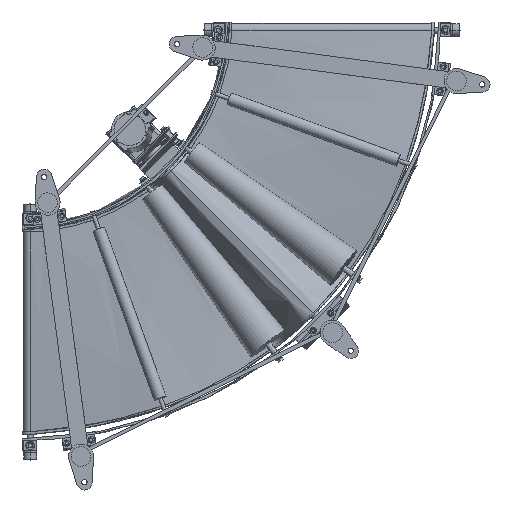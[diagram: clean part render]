
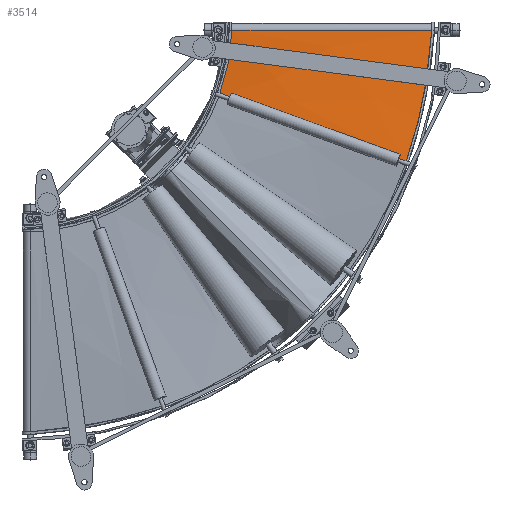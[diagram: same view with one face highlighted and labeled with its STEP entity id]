
A CAD part, front view. The second image highlights one B-rep face of the part: STEP entity #3514.
In plain terms, the highlighted free-form (B-spline) face has degree [3, 1] with [7, 2] control points.
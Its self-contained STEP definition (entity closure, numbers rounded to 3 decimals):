
#3514=ADVANCED_FACE('',(#19812),#19811,.F.);
#19811=( BOUNDED_SURFACE() B_SPLINE_SURFACE( 3,1,((#34413,#34414),(#34415,#34416),(#34417,#34418),(#34419,#34420),(#34421,#34422),(#34423,#34424),(#34425,#34426)), .UNSPECIFIED.,.F.,.F.,.F.) B_SPLINE_SURFACE_WITH_KNOTS((4,1,1,1,4),(2,2),(0.,0.25,0.5,0.75,1.),(0.,1.), .UNSPECIFIED. ) GEOMETRIC_REPRESENTATION_ITEM() RATIONAL_B_SPLINE_SURFACE(((1.,1.),(1.,1.),(1.,1.),(1.,1.),(1.,1.),(1.,1.),(1.,1.))) REPRESENTATION_ITEM('') SURFACE() );
#19812=FACE_OUTER_BOUND('',#34427,.T.);
#34413=CARTESIAN_POINT('',(1000.,-31.1,-15.));
#34414=CARTESIAN_POINT('',(500.,-31.1,-15.));
#34415=CARTESIAN_POINT('',(998.195,-34.35,-42.715));
#34416=CARTESIAN_POINT('',(499.591,-31.489,-28.294));
#34417=CARTESIAN_POINT('',(992.916,-41.021,-98.019));
#34418=CARTESIAN_POINT('',(497.715,-32.297,-54.85));
#34419=CARTESIAN_POINT('',(979.669,-51.532,-180.234));
#34420=CARTESIAN_POINT('',(491.72,-33.59,-94.328));
#34421=CARTESIAN_POINT('',(960.857,-62.529,-261.298));
#34422=CARTESIAN_POINT('',(482.612,-34.953,-133.202));
#34423=CARTESIAN_POINT('',(944.439,-70.167,-314.253));
#34424=CARTESIAN_POINT('',(474.5,-35.904,-158.553));
#34425=CARTESIAN_POINT('',(935.229,-74.057,-340.369));
#34426=CARTESIAN_POINT('',(469.945,-36.389,-171.046));
#34427=EDGE_LOOP('',(#49504,#49505,#49506,#49507,#49508,#49509,#49510));
#49504=ORIENTED_EDGE('',*,*,#55897,.F.);
#49505=ORIENTED_EDGE('',*,*,#55898,.T.);
#49506=ORIENTED_EDGE('',*,*,#55899,.F.);
#49507=ORIENTED_EDGE('',*,*,#55900,.T.);
#49508=ORIENTED_EDGE('',*,*,#55901,.T.);
#49509=ORIENTED_EDGE('',*,*,#55893,.T.);
#49510=ORIENTED_EDGE('',*,*,#55902,.T.);
#55893=EDGE_CURVE('',#82527,#82528,#82529,.T.);
#55897=EDGE_CURVE('',#82555,#82556,#82557,.T.);
#55898=EDGE_CURVE('',#82555,#82563,#82564,.T.);
#55899=EDGE_CURVE('',#82570,#82563,#82571,.T.);
#55900=EDGE_CURVE('',#82570,#82577,#82578,.T.);
#55901=EDGE_CURVE('',#82577,#82527,#82584,.T.);
#55902=EDGE_CURVE('',#82528,#82556,#82590,.T.);
#82527=VERTEX_POINT('',#107670);
#82528=VERTEX_POINT('',#107671);
#82529=(BOUNDED_CURVE() B_SPLINE_CURVE(3,(#107672,#107673,#107674,#107675),.UNSPECIFIED.,.F.,.F.) B_SPLINE_CURVE_WITH_KNOTS((4,4),(0.,0.081),.UNSPECIFIED.) CURVE() GEOMETRIC_REPRESENTATION_ITEM() RATIONAL_B_SPLINE_CURVE((1.,1.,1.,1.)) REPRESENTATION_ITEM('') );
#82555=VERTEX_POINT('',#107696);
#82556=VERTEX_POINT('',#107697);
#82557=LINE('',#107698,#107699);
#82563=VERTEX_POINT('',#107701);
#82564=(BOUNDED_CURVE() B_SPLINE_CURVE(3,(#107702,#107703,#107704,#107705,#107706,#107707,#107708,#107709,#107710,#107711,#107712,#107713,#107714,#107715,#107716,#107717),.UNSPECIFIED.,.F.,.F.) B_SPLINE_CURVE_WITH_KNOTS((4,2,2,2,2,2,2,4),(0.,0.083,0.125,0.167,0.188,0.208,0.25,0.333),.UNSPECIFIED.) CURVE() GEOMETRIC_REPRESENTATION_ITEM() RATIONAL_B_SPLINE_CURVE((1.,1.,1.,1.,1.,1.,1.,1.,1.,1.,1.,1.,1.,1.,1.,1.)) REPRESENTATION_ITEM('') );
#82570=VERTEX_POINT('',#107718);
#82571=(BOUNDED_CURVE() B_SPLINE_CURVE(1,(#107719,#107720),.UNSPECIFIED.,.F.,.F.) B_SPLINE_CURVE_WITH_KNOTS((2,2),(0.,1.),.UNSPECIFIED.) CURVE() GEOMETRIC_REPRESENTATION_ITEM() RATIONAL_B_SPLINE_CURVE((1.,1.)) REPRESENTATION_ITEM('') );
#82577=VERTEX_POINT('',#107721);
#82578=(BOUNDED_CURVE() B_SPLINE_CURVE(3,(#107722,#107723,#107724,#107725),.UNSPECIFIED.,.F.,.F.) B_SPLINE_CURVE_WITH_KNOTS((4,4),(0.,0.),.UNSPECIFIED.) CURVE() GEOMETRIC_REPRESENTATION_ITEM() RATIONAL_B_SPLINE_CURVE((1.,1.,1.,1.)) REPRESENTATION_ITEM('') );
#82584=(BOUNDED_CURVE() B_SPLINE_CURVE(3,(#107726,#107727,#107728,#107729,#107730,#107731,#107732,#107733),.UNSPECIFIED.,.F.,.F.) B_SPLINE_CURVE_WITH_KNOTS((4,2,2,4),(0.,0.02,0.041,0.081),.UNSPECIFIED.) CURVE() GEOMETRIC_REPRESENTATION_ITEM() RATIONAL_B_SPLINE_CURVE((1.,1.,1.,1.,1.,1.,1.,1.)) REPRESENTATION_ITEM('') );
#82590=(BOUNDED_CURVE() B_SPLINE_CURVE(3,(#107734,#107735,#107736,#107737),.UNSPECIFIED.,.F.,.F.) B_SPLINE_CURVE_WITH_KNOTS((4,4),(0.,0.),.UNSPECIFIED.) CURVE() GEOMETRIC_REPRESENTATION_ITEM() RATIONAL_B_SPLINE_CURVE((1.,1.,1.,1.)) REPRESENTATION_ITEM('') );
#107670=CARTESIAN_POINT('',(497.613,-33.836,-95.302));
#107671=CARTESIAN_POINT('',(476.053,-36.882,-173.256));
#107672=CARTESIAN_POINT('',(497.613,-33.836,-95.302));
#107673=CARTESIAN_POINT('',(492.512,-34.805,-121.808));
#107674=CARTESIAN_POINT('',(485.297,-35.824,-147.9));
#107675=CARTESIAN_POINT('',(476.053,-36.882,-173.256));
#107696=CARTESIAN_POINT('',(930.267,-73.655,-338.563));
#107697=CARTESIAN_POINT('',(476.049,-36.883,-173.267));
#107698=CARTESIAN_POINT('',(930.267,-73.655,-338.563));
#107699=VECTOR('',#107700,484.757);
#107700=DIRECTION('',(-0.937,0.076,0.341));
#107701=CARTESIAN_POINT('',(993.5,-31.1,-15.));
#107702=CARTESIAN_POINT('',(930.267,-73.655,-338.563));
#107703=CARTESIAN_POINT('',(939.348,-69.798,-312.584));
#107704=CARTESIAN_POINT('',(947.428,-66.012,-286.247));
#107705=CARTESIAN_POINT('',(958.1,-60.449,-246.34));
#107706=CARTESIAN_POINT('',(961.413,-58.613,-232.969));
#107707=CARTESIAN_POINT('',(967.567,-54.982,-206.115));
#107708=CARTESIAN_POINT('',(970.405,-53.186,-192.63));
#107709=CARTESIAN_POINT('',(974.319,-50.522,-172.334));
#107710=CARTESIAN_POINT('',(975.562,-49.639,-165.556));
#107711=CARTESIAN_POINT('',(977.937,-47.884,-151.979));
#107712=CARTESIAN_POINT('',(979.067,-47.011,-145.18));
#107713=CARTESIAN_POINT('',(982.288,-44.409,-124.754));
#107714=CARTESIAN_POINT('',(984.209,-42.695,-111.098));
#107715=CARTESIAN_POINT('',(989.307,-37.617,-70.041));
#107716=CARTESIAN_POINT('',(991.82,-34.316,-42.551));
#107717=CARTESIAN_POINT('',(993.5,-31.1,-15.));
#107718=CARTESIAN_POINT('',(506.5,-31.1,-15.));
#107719=CARTESIAN_POINT('',(506.5,-31.1,-15.));
#107720=CARTESIAN_POINT('',(993.5,-31.1,-15.));
#107721=CARTESIAN_POINT('',(506.5,-31.103,-15.1));
#107722=CARTESIAN_POINT('',(506.5,-31.1,-15.));
#107723=CARTESIAN_POINT('',(506.5,-31.101,-15.033));
#107724=CARTESIAN_POINT('',(506.5,-31.102,-15.067));
#107725=CARTESIAN_POINT('',(506.5,-31.103,-15.1));
#107726=CARTESIAN_POINT('',(506.5,-31.103,-15.1));
#107727=CARTESIAN_POINT('',(506.293,-31.316,-21.829));
#107728=CARTESIAN_POINT('',(505.955,-31.533,-28.554));
#107729=CARTESIAN_POINT('',(505.008,-31.974,-41.983));
#107730=CARTESIAN_POINT('',(504.4,-32.199,-48.689));
#107731=CARTESIAN_POINT('',(502.176,-32.883,-68.761));
#107732=CARTESIAN_POINT('',(500.157,-33.353,-82.082));
#107733=CARTESIAN_POINT('',(497.613,-33.836,-95.302));
#107734=CARTESIAN_POINT('',(476.053,-36.882,-173.256));
#107735=CARTESIAN_POINT('',(476.052,-36.882,-173.26));
#107736=CARTESIAN_POINT('',(476.05,-36.883,-173.264));
#107737=CARTESIAN_POINT('',(476.049,-36.883,-173.267));
